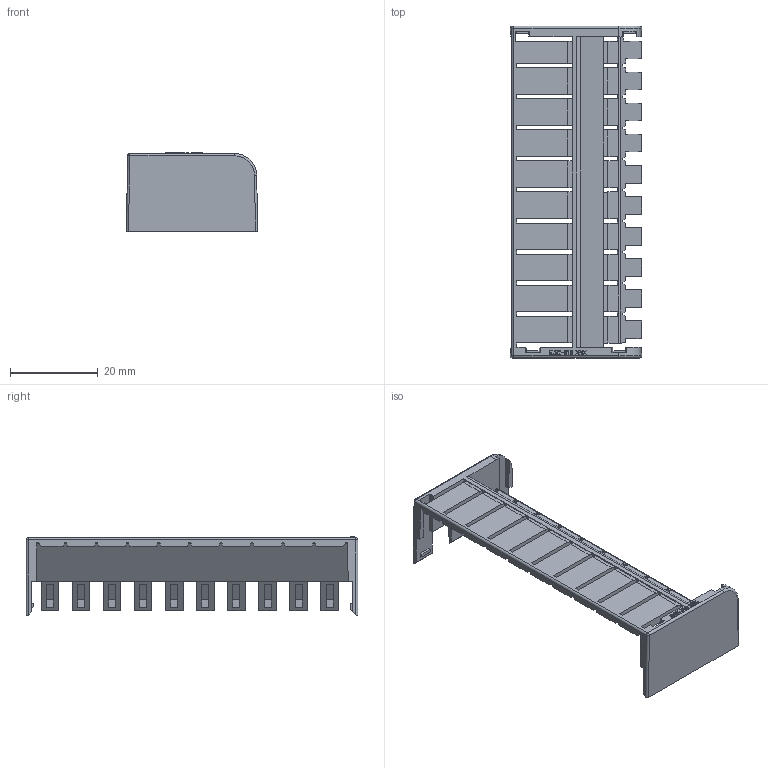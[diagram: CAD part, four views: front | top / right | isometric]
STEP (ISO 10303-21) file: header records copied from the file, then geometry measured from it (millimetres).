
FILE_DESCRIPTION (( 'STEP AP203' ), '1' );
FILE_NAME ('KSRZ-510（端子ｶﾊﾞ-）.STEP', '2020-03-26T00:20:03', ( '' ), ( '' ), 'SwSTEP 2.0', 'SolidWorks 2018', '' );
FILE_SCHEMA (( 'CONFIG_CONTROL_DESIGN' ));
Length unit declared in the file: millimetre
Products named in the file (1): KSRZ-510（端子ｶﾊﾞ-）
Bounding box: 30 x 75.8 x 17.9 mm (x, y, z)
Volume: 5670.4 mm3; surface area: 8543.2 mm2
Topology: 1 solids, 1 shells, 663 faces, 1902 edges, 1246 vertices
Faces by surface type: plane 503, cylinder 93, bspline 63, torus 2, sphere 2
Entity records: 23689 total; most frequent: CARTESIAN_POINT 7064, ORIENTED_EDGE 3800, DIRECTION 2871, EDGE_CURVE 1900, VECTOR 1581, LINE 1581, VERTEX_POINT 1246, EDGE_LOOP 712
